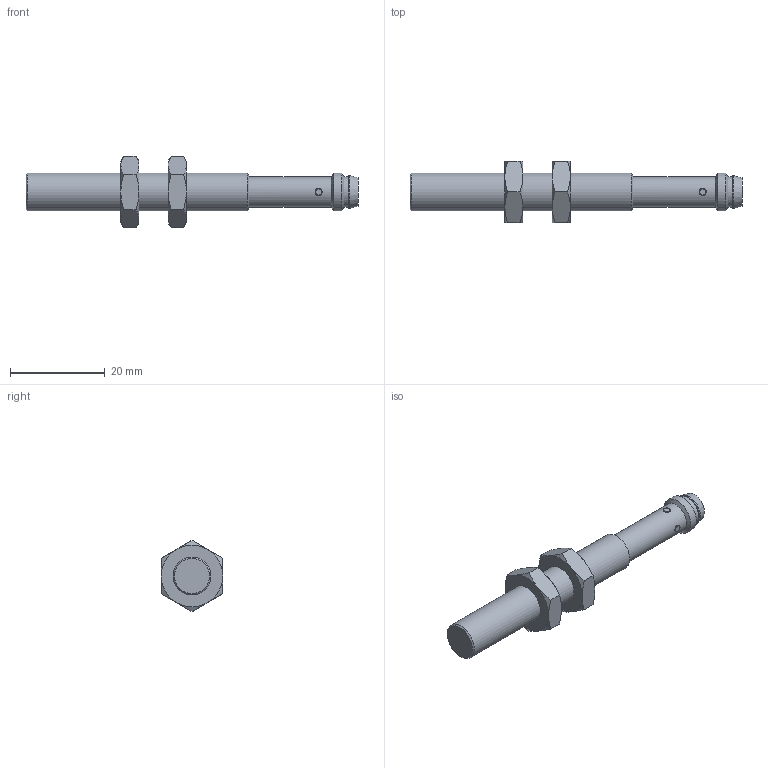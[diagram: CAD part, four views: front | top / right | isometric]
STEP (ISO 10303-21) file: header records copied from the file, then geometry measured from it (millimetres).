
FILE_DESCRIPTION (( 'STEP AP203' ), '1' );
FILE_NAME ('RU-M08-X-V1141.step', '2019-08-19T20:48:39', ( '' ), ( '' ), 'SwSTEP 2.0', 'SolidWorks 2017', '' );
FILE_SCHEMA (( 'CONFIG_CONTROL_DESIGN' ));
Length unit declared in the file: millimetre
Products named in the file (1): RU-M08-X-V1141
Bounding box: 70 x 13 x 15.01 mm (x, y, z)
Volume: 3834.4 mm3; surface area: 2840.3 mm2
Topology: 3 solids, 3 shells, 98 faces, 221 edges, 131 vertices
Faces by surface type: cone 33, plane 25, cylinder 20, bspline 8, torus 8, sphere 4
Full cylindrical faces by diameter (mm): 1.1 x4, 5.678 x1, 6.4 x2, 6.647 x2, 6.924 x1, 8 x2
Entity records: 2689 total; most frequent: CARTESIAN_POINT 843, DIRECTION 368, ORIENTED_EDGE 342, AXIS2_PLACEMENT_3D 178, EDGE_CURVE 171, EDGE_LOOP 134, VERTEX_POINT 111, FACE_OUTER_BOUND 110
